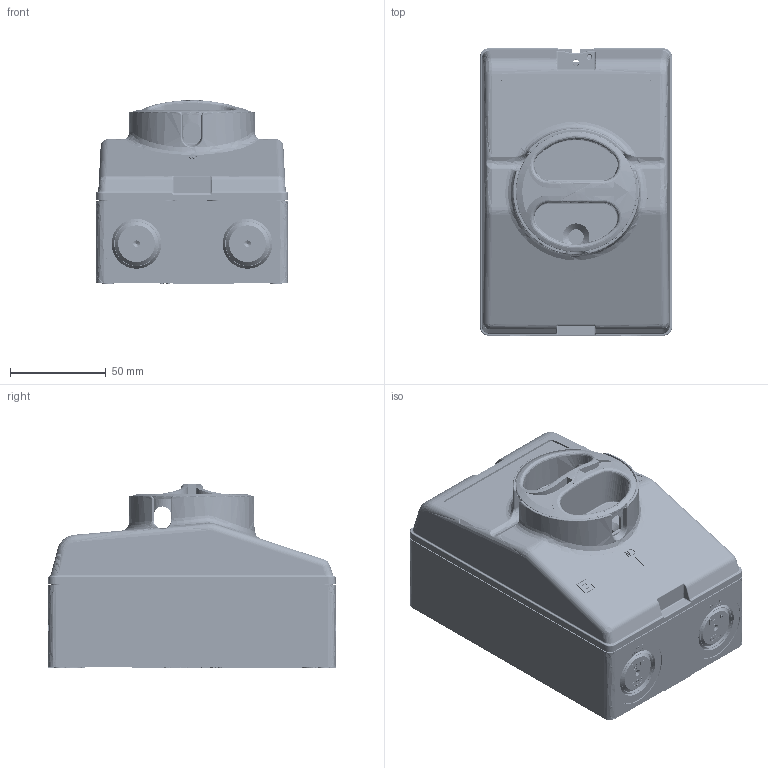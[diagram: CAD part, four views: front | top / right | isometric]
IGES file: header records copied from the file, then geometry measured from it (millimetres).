
Start section: START RECORD GO HERE.
Global section: file name: S01720610.igs; native system: DASSAULT SYSTEMES CATIA V5 R19 - www.3ds.com; preprocessor: CATIA Version 5 Release 19 SP 5 ; author: fantini; organization: EU; date: 20120717.100842; units: millimetre
Bounding box: 100 x 150 x 96.1 mm (x, y, z)
Surface area: 189444.2 mm2 (no closed solid volume)
Topology: 0 solids, 0 shells, 3552 faces, 18101 edges, 17950 vertices
Faces by surface type: bspline 3552
